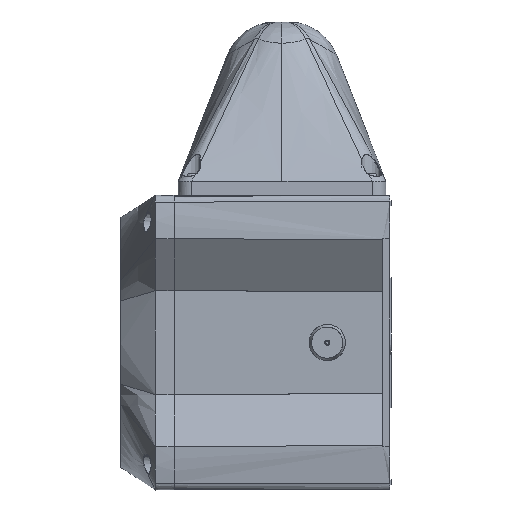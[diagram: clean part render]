
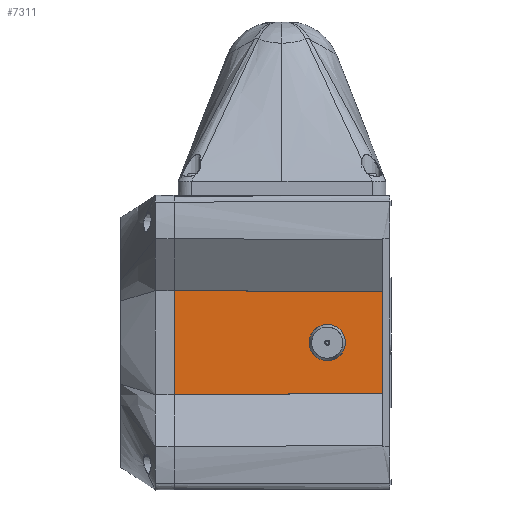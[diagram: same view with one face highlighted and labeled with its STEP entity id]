
A CAD part, left-side view. The second image highlights one B-rep face of the part: STEP entity #7311.
In plain terms, the highlighted planar face has unit normal (-1, 0, 0).
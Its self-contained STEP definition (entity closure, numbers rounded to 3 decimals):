
#7179 = VERTEX_POINT ( 'NONE', #20311 ) ;
#7311 = ADVANCED_FACE ( 'NONE', ( #21453, #21361 ), #21286, .F. ) ;
#7323 = EDGE_CURVE ( 'NONE', #24281, #24281, #21378, .T. ) ;
#7326 = EDGE_CURVE ( 'NONE', #7436, #7343, #21397, .T. ) ;
#7343 = VERTEX_POINT ( 'NONE', #21554 ) ;
#7394 = ORIENTED_EDGE ( 'NONE', *, *, #7421, .F. ) ;
#7400 = EDGE_CURVE ( 'NONE', #7419, #7179, #22354, .T. ) ;
#7401 = ORIENTED_EDGE ( 'NONE', *, *, #7326, .F. ) ;
#7403 = ORIENTED_EDGE ( 'NONE', *, *, #7400, .F. ) ;
#7416 = EDGE_LOOP ( 'NONE', ( #7532 ) ) ;
#7418 = ORIENTED_EDGE ( 'NONE', *, *, #7434, .F. ) ;
#7419 = VERTEX_POINT ( 'NONE', #22211 ) ;
#7421 = EDGE_CURVE ( 'NONE', #7343, #7419, #22168, .T. ) ;
#7434 = EDGE_CURVE ( 'NONE', #7179, #7436, #22293, .T. ) ;
#7436 = VERTEX_POINT ( 'NONE', #22294 ) ;
#7532 = ORIENTED_EDGE ( 'NONE', *, *, #7323, .F. ) ;
#7533 = EDGE_LOOP ( 'NONE', ( #7394, #7401, #7418, #7403 ) ) ;
#20311 = CARTESIAN_POINT ( 'NONE',  ( -85., -76.2, -29.365 ) ) ;
#21286 = PLANE ( 'NONE',  #21439 ) ;
#21333 = DIRECTION ( 'NONE',  ( 0., 0., -1. ) ) ;
#21334 = DIRECTION ( 'NONE',  ( 1., 0., 0. ) ) ;
#21335 = CARTESIAN_POINT ( 'NONE',  ( -85., -76.2, 29.365 ) ) ;
#21361 = FACE_OUTER_BOUND ( 'NONE', #7533, .T. ) ;
#21364 = DIRECTION ( 'NONE',  ( 0., 0., 1. ) ) ;
#21365 = DIRECTION ( 'NONE',  ( -1., 0., 0. ) ) ;
#21366 = CARTESIAN_POINT ( 'NONE',  ( -85., -44.2, 0. ) ) ;
#21367 = AXIS2_PLACEMENT_3D ( 'NONE', #21366, #21365, #21364 ) ;
#21378 = CIRCLE ( 'NONE', #21367, 10.5 ) ;
#21393 = DIRECTION ( 'NONE',  ( 0., 0., 1. ) ) ;
#21394 = VECTOR ( 'NONE', #21393, 1000. ) ;
#21395 = CARTESIAN_POINT ( 'NONE',  ( -85., 44., 60. ) ) ;
#21397 = LINE ( 'NONE', #21395, #21394 ) ;
#21439 = AXIS2_PLACEMENT_3D ( 'NONE', #21335, #21334, #21333 ) ;
#21453 = FACE_BOUND ( 'NONE', #7416, .T. ) ;
#21554 = CARTESIAN_POINT ( 'NONE',  ( -85., 44., 30. ) ) ;
#22165 = VECTOR ( 'NONE', #22212, 1000. ) ;
#22167 = CARTESIAN_POINT ( 'NONE',  ( -85., 44., 30. ) ) ;
#22168 = LINE ( 'NONE', #22167, #22165 ) ;
#22211 = CARTESIAN_POINT ( 'NONE',  ( -85., -76.2, 29.365 ) ) ;
#22212 = DIRECTION ( 'NONE',  ( 0., -1., -0.005 ) ) ;
#22291 = DIRECTION ( 'NONE',  ( 0., 1., -0.005 ) ) ;
#22292 = VECTOR ( 'NONE', #22291, 1000. ) ;
#22293 = LINE ( 'NONE', #22298, #22292 ) ;
#22294 = CARTESIAN_POINT ( 'NONE',  ( -85., 44., -30. ) ) ;
#22298 = CARTESIAN_POINT ( 'NONE',  ( -85., -76.2, -29.365 ) ) ;
#22351 = DIRECTION ( 'NONE',  ( 0., 0., -1. ) ) ;
#22352 = VECTOR ( 'NONE', #22351, 1000. ) ;
#22353 = CARTESIAN_POINT ( 'NONE',  ( -85., -76.2, 29.365 ) ) ;
#22354 = LINE ( 'NONE', #22353, #22352 ) ;
#24278 = CARTESIAN_POINT ( 'NONE',  ( -85., -44.2, 10.5 ) ) ;
#24281 = VERTEX_POINT ( 'NONE', #24278 ) ;
